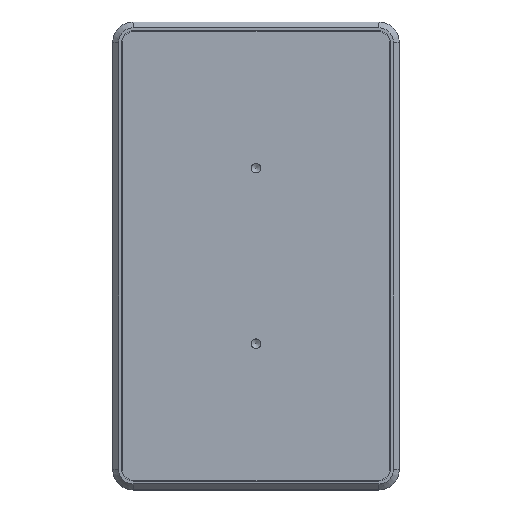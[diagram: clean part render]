
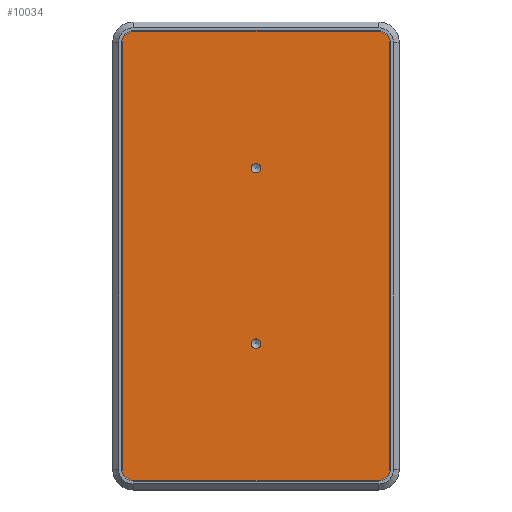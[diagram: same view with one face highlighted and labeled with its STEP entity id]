
A CAD part, top view. The second image highlights one B-rep face of the part: STEP entity #10034.
In plain terms, the highlighted planar face has unit normal (0, 0, 1).
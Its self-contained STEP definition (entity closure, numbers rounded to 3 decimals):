
#231=FACE_BOUND('',#3182,.T.);
#232=FACE_BOUND('',#3183,.T.);
#684=LINE('',#19683,#1418);
#688=LINE('',#19692,#1422);
#691=LINE('',#19700,#1425);
#694=LINE('',#19708,#1428);
#1418=VECTOR('',#12366,10.);
#1422=VECTOR('',#12376,10.);
#1425=VECTOR('',#12385,10.);
#1428=VECTOR('',#12394,10.);
#2540=FACE_OUTER_BOUND('',#3181,.T.);
#3181=EDGE_LOOP('',(#8525,#8526,#8527,#8528,#8529,#8530,#8531,#8532));
#3182=EDGE_LOOP('',(#8533));
#3183=EDGE_LOOP('',(#8534));
#3466=CIRCLE('',#10570,4.);
#3467=CIRCLE('',#10573,4.);
#3468=CIRCLE('',#10576,4.);
#3469=CIRCLE('',#10579,4.);
#3470=CIRCLE('',#10581,1.621);
#3472=CIRCLE('',#10585,1.621);
#4152=VERTEX_POINT('',#19681);
#4153=VERTEX_POINT('',#19682);
#4154=VERTEX_POINT('',#19687);
#4155=VERTEX_POINT('',#19691);
#4156=VERTEX_POINT('',#19695);
#4157=VERTEX_POINT('',#19699);
#4158=VERTEX_POINT('',#19703);
#4159=VERTEX_POINT('',#19707);
#4160=VERTEX_POINT('',#19713);
#4163=VERTEX_POINT('',#19722);
#5260=EDGE_CURVE('',#4152,#4153,#684,.T.);
#5263=EDGE_CURVE('',#4154,#4152,#3466,.T.);
#5265=EDGE_CURVE('',#4155,#4154,#688,.T.);
#5267=EDGE_CURVE('',#4156,#4155,#3467,.T.);
#5269=EDGE_CURVE('',#4157,#4156,#691,.T.);
#5271=EDGE_CURVE('',#4158,#4157,#3468,.T.);
#5273=EDGE_CURVE('',#4159,#4158,#694,.T.);
#5275=EDGE_CURVE('',#4153,#4159,#3469,.T.);
#5276=EDGE_CURVE('',#4160,#4160,#3470,.T.);
#5280=EDGE_CURVE('',#4163,#4163,#3472,.T.);
#8525=ORIENTED_EDGE('',*,*,#5275,.F.);
#8526=ORIENTED_EDGE('',*,*,#5260,.F.);
#8527=ORIENTED_EDGE('',*,*,#5263,.F.);
#8528=ORIENTED_EDGE('',*,*,#5265,.F.);
#8529=ORIENTED_EDGE('',*,*,#5267,.F.);
#8530=ORIENTED_EDGE('',*,*,#5269,.F.);
#8531=ORIENTED_EDGE('',*,*,#5271,.F.);
#8532=ORIENTED_EDGE('',*,*,#5273,.F.);
#8533=ORIENTED_EDGE('',*,*,#5280,.T.);
#8534=ORIENTED_EDGE('',*,*,#5276,.T.);
#8934=PLANE('',#11062);
#10034=ADVANCED_FACE('',(#2540,#231,#232),#8934,.F.);
#10570=AXIS2_PLACEMENT_3D('',#19688,#12371,#12372);
#10573=AXIS2_PLACEMENT_3D('',#19696,#12380,#12381);
#10576=AXIS2_PLACEMENT_3D('',#19704,#12389,#12390);
#10579=AXIS2_PLACEMENT_3D('',#19711,#12398,#12399);
#10581=AXIS2_PLACEMENT_3D('',#19714,#12402,#12403);
#10585=AXIS2_PLACEMENT_3D('',#19723,#12412,#12413);
#11062=AXIS2_PLACEMENT_3D('',#21052,#13765,#13766);
#12366=DIRECTION('',(-1.,0.,0.));
#12371=DIRECTION('center_axis',(0.,0.,
-1.));
#12372=DIRECTION('ref_axis',(0.,-1.,0.));
#12376=DIRECTION('',(0.,-1.,0.));
#12380=DIRECTION('center_axis',(0.,0.,
-1.));
#12381=DIRECTION('ref_axis',(1.,0.,0.));
#12385=DIRECTION('',(1.,0.,0.));
#12389=DIRECTION('center_axis',(0.,0.,
-1.));
#12390=DIRECTION('ref_axis',(0.,1.,0.));
#12394=DIRECTION('',(0.,1.,0.));
#12398=DIRECTION('center_axis',(0.,0.,
-1.));
#12399=DIRECTION('ref_axis',(-1.,0.,0.));
#12402=DIRECTION('center_axis',(0.,0.,
-1.));
#12403=DIRECTION('ref_axis',(1.,0.,0.));
#12412=DIRECTION('center_axis',(0.,0.,
-1.));
#12413=DIRECTION('ref_axis',(1.,0.,0.));
#13765=DIRECTION('center_axis',(0.,0.,
-1.));
#13766=DIRECTION('ref_axis',(-1.,0.,0.));
#19681=CARTESIAN_POINT('',(91.074,4.14,33.));
#19682=CARTESIAN_POINT('',(7.574,4.14,33.));
#19683=CARTESIAN_POINT('',(7.574,4.14,33.));
#19687=CARTESIAN_POINT('',(95.074,8.14,33.));
#19688=CARTESIAN_POINT('Origin',(91.074,8.14,33.));
#19691=CARTESIAN_POINT('',(95.074,153.64,33.));
#19692=CARTESIAN_POINT('',(95.074,8.14,33.));
#19695=CARTESIAN_POINT('',(91.074,157.64,33.));
#19696=CARTESIAN_POINT('Origin',(91.074,153.64,33.));
#19699=CARTESIAN_POINT('',(7.574,157.64,33.));
#19700=CARTESIAN_POINT('',(91.074,157.64,33.));
#19703=CARTESIAN_POINT('',(3.574,153.64,33.));
#19704=CARTESIAN_POINT('Origin',(7.574,153.64,33.));
#19707=CARTESIAN_POINT('',(3.574,8.14,33.));
#19708=CARTESIAN_POINT('',(3.574,153.64,33.));
#19711=CARTESIAN_POINT('Origin',(7.574,8.14,33.));
#19713=CARTESIAN_POINT('',(47.703,50.89,33.));
#19714=CARTESIAN_POINT('Origin',(49.324,50.89,33.));
#19722=CARTESIAN_POINT('',(47.703,110.89,33.));
#19723=CARTESIAN_POINT('Origin',(49.324,110.89,33.));
#21052=CARTESIAN_POINT('Origin',(9.324,80.89,33.));
